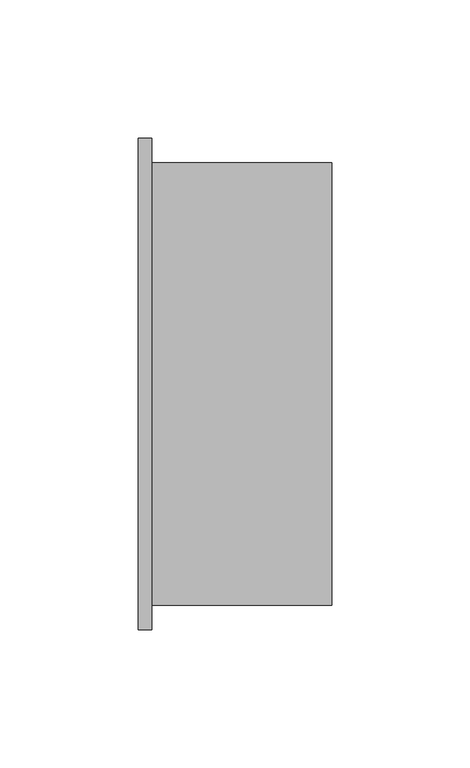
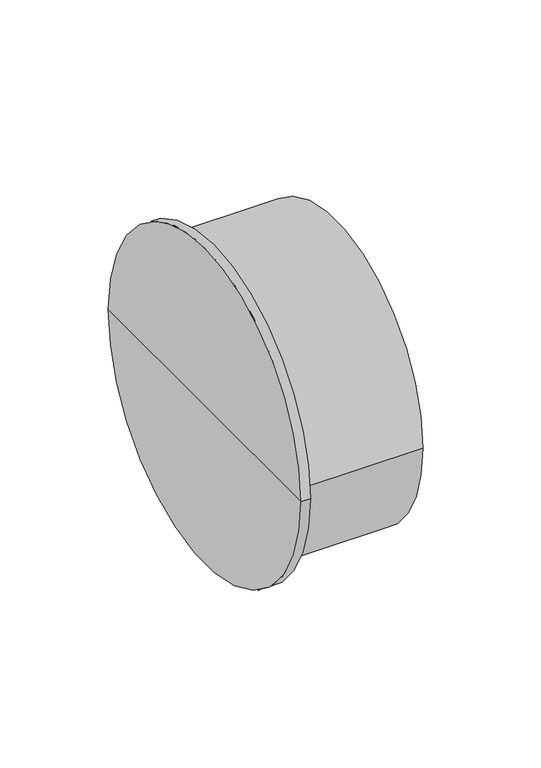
"""IFC4 building model written with IfcOpenShell, lengths in millimetres: pipe fitting geometry, OSMA_KG2000_PPKGM : Hrdlová zátka."""

from ifc_helpers import new_model, si_unit, frame, origin, place, context, project, spatial, circle_curve, source, transform, mapped, element, save
from ifc_brep_helpers import plane_surface, cylinder_surface, advanced_brep


def pipe_fitting_6177effc(model_context):
    return source(origin(), model_context, "Body", "AdvancedBrep", [
        advanced_brep(
        [(70.0, -80.0, 0.0), (70.0, 80.0, 0.0), (70.0, 0.0, 0.0), (4.9, -80.0, 0.0), (4.9, 80.0, 0.0), (4.9, -88.9, 0.0), (4.9, 88.9, 0.0), (0.0, -88.9, 0.0), (0.0, 88.9, 0.0), (0.0, 0.0, 0.0)],
        [
            (0, 1, circle_curve(frame((70.0, 0.0, 0.0), z_axis=(1.0, 0.0, 0.0), x_axis=(0.0, 1.0, 0.0)), 80.0)),
            (1, 2),
            (2, 0),
            (1, 0, circle_curve(frame((70.0, 0.0, 0.0), z_axis=(1.0, 0.0, 0.0), x_axis=(0.0, 1.0, 0.0)), 80.0)),
            (3, 4, circle_curve(frame((4.9, 0.0, 0.0), z_axis=(1.0, 0.0, 0.0), x_axis=(0.0, 1.0, 0.0)), 80.0)),
            (4, 1),
            (0, 3),
            (4, 3, circle_curve(frame((4.9, 0.0, 0.0), z_axis=(1.0, 0.0, 0.0), x_axis=(0.0, 1.0, 0.0)), 80.0)),
            (5, 6, circle_curve(frame((4.9, 0.0, 0.0), z_axis=(1.0, 0.0, 0.0), x_axis=(0.0, 1.0, 0.0)), 88.9)),
            (6, 4),
            (3, 5),
            (6, 5, circle_curve(frame((4.9, 0.0, 0.0), z_axis=(1.0, 0.0, 0.0), x_axis=(0.0, 1.0, 0.0)), 88.9)),
            (7, 8, circle_curve(frame((0.0, 0.0, 0.0), z_axis=(1.0, 0.0, 0.0), x_axis=(0.0, 1.0, 0.0)), 88.9)),
            (8, 6),
            (5, 7),
            (8, 7, circle_curve(frame((0.0, 0.0, 0.0), z_axis=(1.0, 0.0, 0.0), x_axis=(0.0, 1.0, 0.0)), 88.9)),
            (9, 8),
            (7, 9),
        ],
        [
            plane_surface(frame((70.0, 0.0, 0.0), z_axis=(1.0, 0.0, 0.0), x_axis=(0.0, 1.0, 0.0))),
            cylinder_surface(frame((2015.0, 0.0, 0.0), z_axis=(-1.0, 0.0, 0.0), x_axis=(0.0, 1.0, 0.0)), 80.0),
            plane_surface(frame((4.9, 0.0, 0.0), z_axis=(1.0, 0.0, 0.0), x_axis=(0.0, 1.0, 0.0))),
            cylinder_surface(frame((2015.0, 0.0, 0.0), z_axis=(-1.0, 0.0, 0.0), x_axis=(0.0, 1.0, 0.0)), 88.9),
            plane_surface(frame((0.0, 0.0, 0.0), z_axis=(-1.0, 0.0, 0.0), x_axis=(0.0, 1.0, 0.0))),
        ],
        [
            (0, [[1, 2, 3]]),
            (0, [[4, -3, -2]]),
            (1, [[5, 6, -1, 7]]),
            (1, [[8, -7, -4, -6]]),
            (2, [[9, 10, -5, 11]]),
            (2, [[12, -11, -8, -10]]),
            (3, [[13, 14, -9, 15]]),
            (3, [[16, -15, -12, -14]]),
            (4, [[17, -13, 18]]),
            (4, [[-18, -16, -17]]),
        ],
    ),
    ])


if __name__ == "__main__":
    model = new_model("IFC4")
    model_context = context("Model", 3, world=origin())
    ifc_project = project(units=[si_unit("LENGTHUNIT", "METRE", prefix="MILLI")], contexts=[model_context])
    site = spatial("IfcSite", under=ifc_project)
    building = spatial("IfcBuilding", under=site)
    placement = place(None, origin())
    pipe_fitting_shape = pipe_fitting_6177effc(model_context)
    element("IfcPipeFitting", 1, ObjectType="OSMA_KG2000_PPKGM : Hrdlová zátka", at=placement, inside=building, context=model_context, shape_type="MappedRepresentation", body=[
        mapped(pipe_fitting_shape, transform((0.0, 0.0, 0.0), x_axis=(1.0, 0.0, 0.0), y_axis=(0.0, 1.0, 0.0), z_axis=(0.0, 0.0, 1.0))),
    ])
    save(model, "model.ifc")
